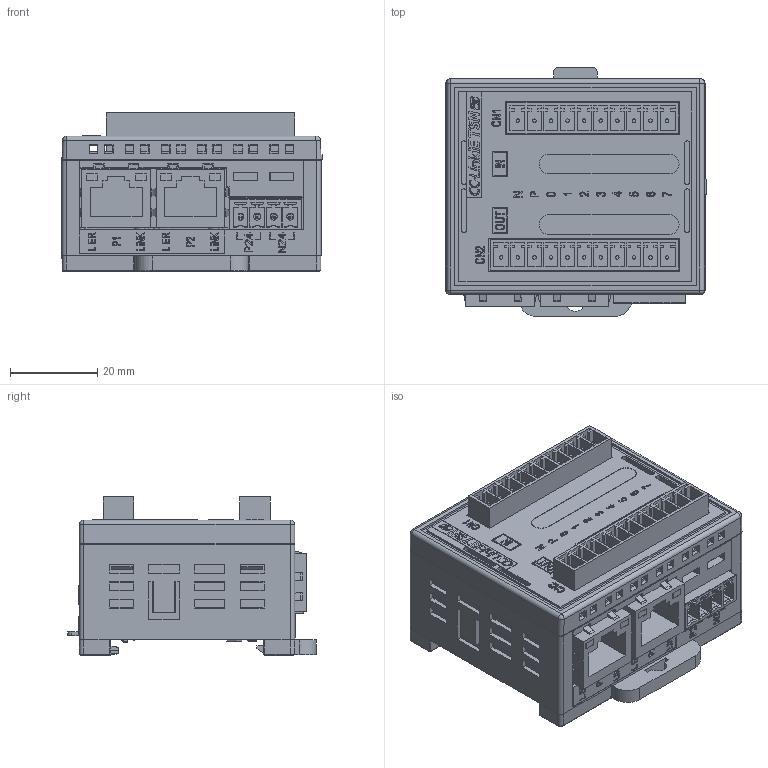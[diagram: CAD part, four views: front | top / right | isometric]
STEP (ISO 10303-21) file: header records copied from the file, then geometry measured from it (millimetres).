
FILE_DESCRIPTION((''),'2;1');
FILE_NAME('CTCBP88','2026-05-11T15:07:45',('gijyu181'),(''),'CREO PARAMETRIC BY PTC INC, 2018050','CREO PARAMETRIC BY PTC INC, 2018050','');
FILE_SCHEMA(('CONFIG_CONTROL_DESIGN','SHAPE_APPEARANCE_LAYERS_GROUPS'));
Products named in the file (1): CTCBP88
Bounding box: 59.75 x 57.15 x 36.3 mm (x, y, z)
Volume: 68581 mm3; surface area: 40788.9 mm2
Topology: 1 solids, 17 shells, 5803 faces, 16010 edges, 10567 vertices
Faces by surface type: plane 4405, cylinder 718, extrusion 544, sphere 44, cone 42, torus 26, bspline 24
Entity records: 233039 total; most frequent: CARTESIAN_POINT 40590, ORIENTED_EDGE 31984, DIRECTION 27064, EDGE_CURVE 15996, VECTOR 13664, LINE 13120, VERTEX_POINT 10567, PRESENTATION_STYLE_ASSIGNMENT 9133
